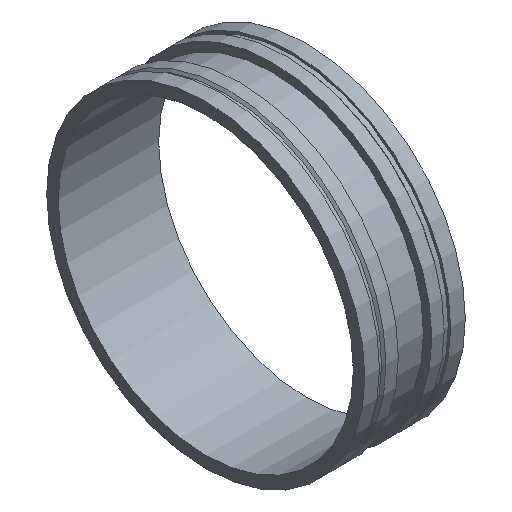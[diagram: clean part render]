
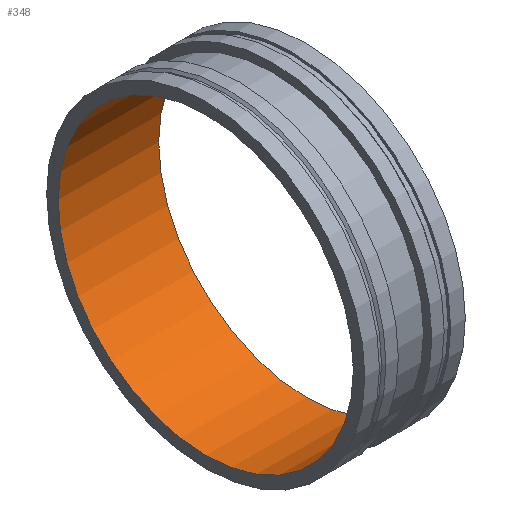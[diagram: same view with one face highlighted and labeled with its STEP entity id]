
A CAD part, isometric view. The second image highlights one B-rep face of the part: STEP entity #348.
In plain terms, the highlighted cylindrical face has radius 447.675 mm (diameter 895.35 mm), a full revolution.
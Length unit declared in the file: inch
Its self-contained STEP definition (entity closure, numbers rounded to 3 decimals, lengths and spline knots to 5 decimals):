
#56=LINE('',#654,#66);
#66=VECTOR('',#537,17.625);
#74=CYLINDRICAL_SURFACE('',#416,17.625);
#96=FACE_OUTER_BOUND('',#118,.T.);
#118=EDGE_LOOP('',(#303,#304,#305,#306,#307,#308));
#121=CIRCLE('',#372,17.625);
#122=CIRCLE('',#373,17.625);
#149=CIRCLE('',#414,17.625);
#150=CIRCLE('',#415,17.625);
#153=VERTEX_POINT('',#570);
#154=VERTEX_POINT('',#571);
#181=VERTEX_POINT('',#649);
#182=VERTEX_POINT('',#650);
#185=EDGE_CURVE('',#153,#154,#121,.T.);
#186=EDGE_CURVE('',#154,#153,#122,.T.);
#222=EDGE_CURVE('',#181,#182,#149,.T.);
#223=EDGE_CURVE('',#182,#181,#150,.T.);
#224=EDGE_CURVE('',#182,#154,#56,.T.);
#303=ORIENTED_EDGE('',*,*,#222,.T.);
#304=ORIENTED_EDGE('',*,*,#224,.T.);
#305=ORIENTED_EDGE('',*,*,#185,.F.);
#306=ORIENTED_EDGE('',*,*,#186,.F.);
#307=ORIENTED_EDGE('',*,*,#224,.F.);
#308=ORIENTED_EDGE('',*,*,#223,.T.);
#348=ADVANCED_FACE('',(#96),#74,.F.);
#372=AXIS2_PLACEMENT_3D('',#572,#438,#439);
#373=AXIS2_PLACEMENT_3D('',#573,#440,#441);
#414=AXIS2_PLACEMENT_3D('',#651,#531,#532);
#415=AXIS2_PLACEMENT_3D('',#652,#533,#534);
#416=AXIS2_PLACEMENT_3D('',#653,#535,#536);
#438=DIRECTION('center_axis',(1.,0.,0.));
#439=DIRECTION('ref_axis',(0.,0.,-1.));
#440=DIRECTION('center_axis',(1.,0.,0.));
#441=DIRECTION('ref_axis',(0.,0.,-1.));
#531=DIRECTION('center_axis',(1.,0.,0.));
#532=DIRECTION('ref_axis',(0.,0.,-1.));
#533=DIRECTION('center_axis',(1.,0.,0.));
#534=DIRECTION('ref_axis',(0.,0.,-1.));
#535=DIRECTION('center_axis',(1.,0.,0.));
#536=DIRECTION('ref_axis',(0.,1.,0.));
#537=DIRECTION('',(-1.,0.,0.));
#570=CARTESIAN_POINT('',(0.,17.625,0.));
#571=CARTESIAN_POINT('',(0.,-17.625,0.));
#572=CARTESIAN_POINT('Origin',(0.,0.,
0.));
#573=CARTESIAN_POINT('Origin',(0.,0.,
0.));
#649=CARTESIAN_POINT('',(12.,17.625,0.));
#650=CARTESIAN_POINT('',(12.,-17.625,0.));
#651=CARTESIAN_POINT('Origin',(12.,0.,0.));
#652=CARTESIAN_POINT('Origin',(12.,0.,0.));
#653=CARTESIAN_POINT('Origin',(6.,0.,0.));
#654=CARTESIAN_POINT('',(6.,-17.625,0.));
